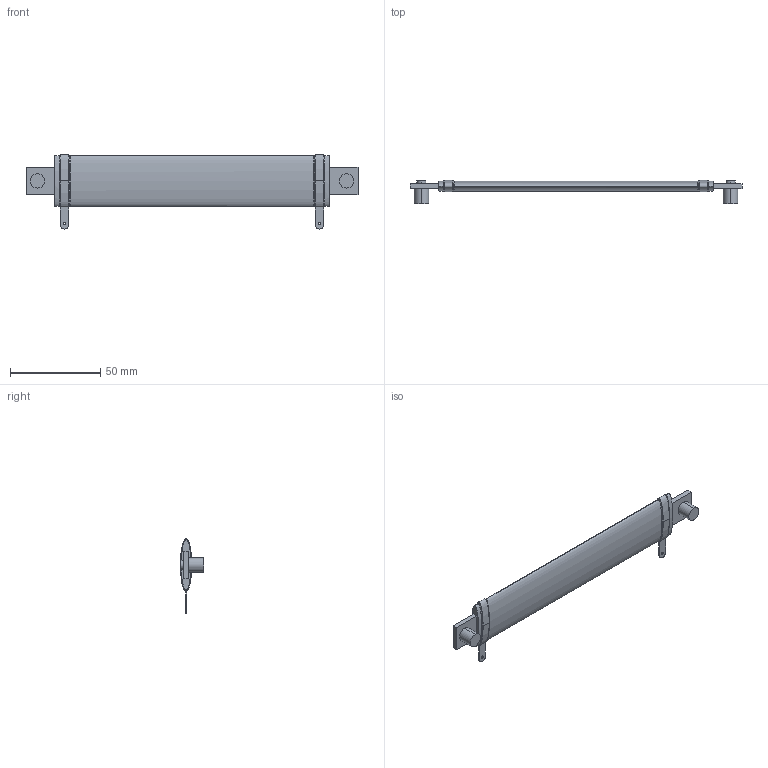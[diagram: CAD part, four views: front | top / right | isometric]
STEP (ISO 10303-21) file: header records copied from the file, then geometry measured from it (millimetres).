
FILE_DESCRIPTION (( 'STEP AP203' ), '1' );
FILE_NAME ('FSOT95-16E.STEP', '2019-11-04T15:55:41', ( '' ), ( '' ), 'SwSTEP 2.0', 'SolidWorks 2019', '' );
FILE_SCHEMA (( 'CONFIG_CONTROL_DESIGN' ));
Length unit declared in the file: millimetre
Products named in the file (1): FSOT95-16E
Bounding box: 184.16 x 12.91 x 41.12 mm (x, y, z)
Volume: 20957.8 mm3; surface area: 11102 mm2
Topology: 1 solids, 1 shells, 120 faces, 316 edges, 204 vertices
Faces by surface type: bspline 80, plane 24, cylinder 16
Entity records: 6381 total; most frequent: CARTESIAN_POINT 3879, ORIENTED_EDGE 632, DIRECTION 328, EDGE_CURVE 316, VERTEX_POINT 204, B_SPLINE_CURVE_WITH_KNOTS 158, AXIS2_PLACEMENT_3D 133, EDGE_LOOP 130
